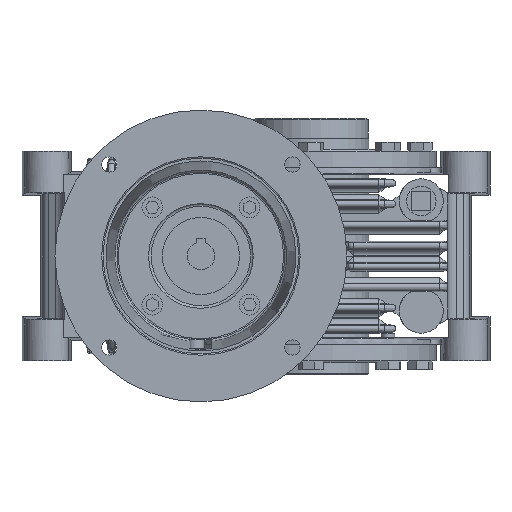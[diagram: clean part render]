
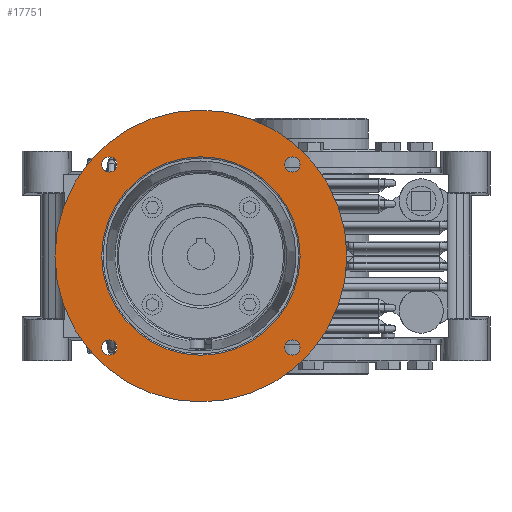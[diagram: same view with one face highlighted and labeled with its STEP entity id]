
A CAD part, front view. The second image highlights one B-rep face of the part: STEP entity #17751.
In plain terms, the highlighted planar face has unit normal (0, -1, 0) as drawn and (1, 0, 0) by its records, which use the part's own axes.
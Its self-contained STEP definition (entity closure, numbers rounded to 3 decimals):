
#8652=ORIENTED_EDGE('',*,*,#11375,.T.);
#8653=ORIENTED_EDGE('',*,*,#11376,.T.);
#8654=ORIENTED_EDGE('',*,*,#11377,.F.);
#8655=ORIENTED_EDGE('',*,*,#11378,.T.);
#8656=ORIENTED_EDGE('',*,*,#11379,.T.);
#8657=ORIENTED_EDGE('',*,*,#11380,.T.);
#11375=EDGE_CURVE('',#13000,#13000,#13575,.T.);
#11376=EDGE_CURVE('',#13001,#13001,#13576,.T.);
#11377=EDGE_CURVE('',#13002,#13002,#13577,.T.);
#11378=EDGE_CURVE('',#13003,#13003,#13578,.T.);
#11379=EDGE_CURVE('',#13004,#13004,#13579,.T.);
#11380=EDGE_CURVE('',#13005,#13005,#13580,.T.);
#13000=VERTEX_POINT('',#39533);
#13001=VERTEX_POINT('',#39535);
#13002=VERTEX_POINT('',#39537);
#13003=VERTEX_POINT('',#39539);
#13004=VERTEX_POINT('',#39541);
#13005=VERTEX_POINT('',#39543);
#13575=CIRCLE('',#20627,4.366);
#13576=CIRCLE('',#20628,4.366);
#13577=CIRCLE('',#20629,84.138);
#13578=CIRCLE('',#20630,57.169);
#13579=CIRCLE('',#20631,4.366);
#13580=CIRCLE('',#20632,4.366);
#14756=EDGE_LOOP('',(#8652));
#14757=EDGE_LOOP('',(#8653));
#14758=EDGE_LOOP('',(#8654));
#14759=EDGE_LOOP('',(#8655));
#14760=EDGE_LOOP('',(#8656));
#14761=EDGE_LOOP('',(#8657));
#16055=FACE_BOUND('',#14756,.T.);
#16056=FACE_BOUND('',#14757,.T.);
#16057=FACE_BOUND('',#14758,.T.);
#16058=FACE_BOUND('',#14759,.T.);
#16059=FACE_BOUND('',#14760,.T.);
#16060=FACE_BOUND('',#14761,.T.);
#16680=PLANE('',#20626);
#17751=ADVANCED_FACE('',(#16055,#16056,#16057,#16058,#16059,#16060),#16680,
 .F.);
#20626=AXIS2_PLACEMENT_3D('',#39531,#24329,#24330);
#20627=AXIS2_PLACEMENT_3D('',#39532,#24331,#24332);
#20628=AXIS2_PLACEMENT_3D('',#39534,#24333,#24334);
#20629=AXIS2_PLACEMENT_3D('',#39536,#24335,#24336);
#20630=AXIS2_PLACEMENT_3D('',#39538,#24337,#24338);
#20631=AXIS2_PLACEMENT_3D('',#39540,#24339,#24340);
#20632=AXIS2_PLACEMENT_3D('',#39542,#24341,#24342);
#24329=DIRECTION('',(-1.,0.,0.));
#24330=DIRECTION('',(0.,0.,1.));
#24331=DIRECTION('',(-1.,0.,0.));
#24332=DIRECTION('',(0.,-1.,0.));
#24333=DIRECTION('',(-1.,0.,0.));
#24334=DIRECTION('',(0.,1.,0.));
#24335=DIRECTION('',(-1.,0.,0.));
#24336=DIRECTION('',(0.,0.,1.));
#24337=DIRECTION('',(-1.,0.,0.));
#24338=DIRECTION('',(0.,0.,1.));
#24339=DIRECTION('',(-1.,0.,0.));
#24340=DIRECTION('',(0.,0.,1.));
#24341=DIRECTION('',(-1.,0.,0.));
#24342=DIRECTION('',(0.,0.,-1.));
#39531=CARTESIAN_POINT('',(122.514,0.,57.169));
#39532=CARTESIAN_POINT('',(122.514,-52.759,-52.759));
#39533=CARTESIAN_POINT('',(122.514,-57.125,-52.759));
#39534=CARTESIAN_POINT('',(122.514,52.759,52.759));
#39535=CARTESIAN_POINT('',(122.514,57.125,52.759));
#39536=CARTESIAN_POINT('',(122.514,0.,0.));
#39537=CARTESIAN_POINT('',(122.514,0.,84.138));
#39538=CARTESIAN_POINT('',(122.514,0.,0.));
#39539=CARTESIAN_POINT('',(122.514,0.,57.169));
#39540=CARTESIAN_POINT('',(122.514,-52.759,52.759));
#39541=CARTESIAN_POINT('',(122.514,-52.759,57.125));
#39542=CARTESIAN_POINT('',(122.514,52.759,-52.759));
#39543=CARTESIAN_POINT('',(122.514,52.759,-57.125));
